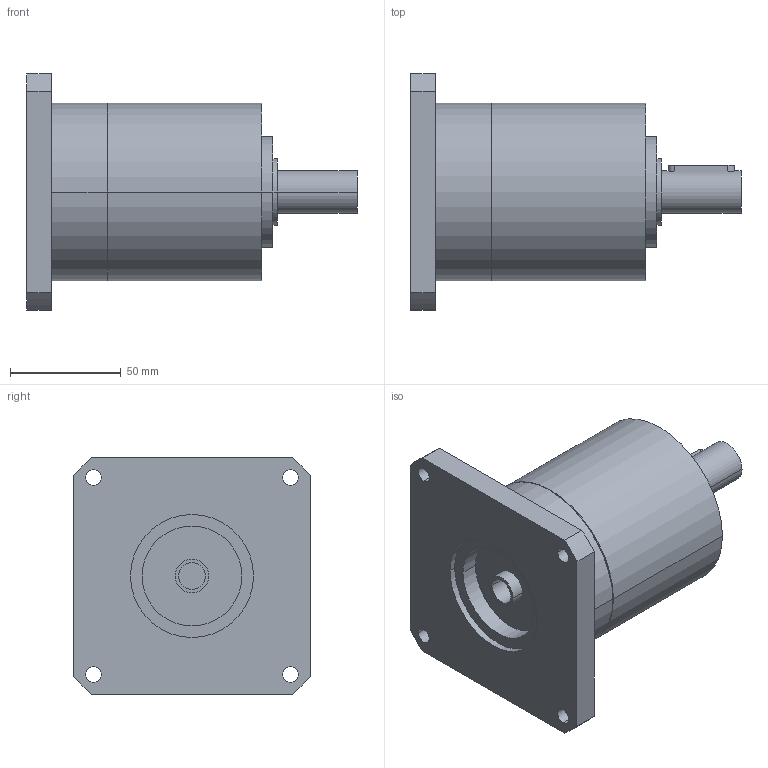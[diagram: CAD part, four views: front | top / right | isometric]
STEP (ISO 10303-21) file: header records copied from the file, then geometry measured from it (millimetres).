
FILE_DESCRIPTION(('CoCreate Modeling STEP Export'),'2;1');
FILE_NAME('GPR100_ig-3-4-5-6_19_B14_12.7_P02.stp','2014-08-26T10:06:44',(''),(''),'CoCreate Modeling STEP processor for AP214 (Solid Model)','CoCreate Modeling 16.00C 25-Feb-2009 (C) Parametric Technology GmbH','');
FILE_SCHEMA(('AUTOMOTIVE_DESIGN { 1 0 10303 214 1 1 1 1 }'));
Length unit declared in the file: millimetre
Products named in the file (2): GPR100_ig-3-4-5-6_19_B14_12.7_P02
Assembly tree (1 placements, depth 2):
  GPR100_ig-3-4-5-6_19_B14_12.7_P02
    GPR100_ig-3-4-5-6_19_B14_12.7_P02
Bounding box: 149 x 106.5 x 106.5 mm (x, y, z)
Volume: 597646.2 mm3; surface area: 59303.6 mm2
Topology: 1 solids, 1 shells, 70 faces, 187 edges, 131 vertices
Faces by surface type: cylinder 42, plane 22, cone 6
Entity records: 1934 total; most frequent: ORIENTED_EDGE 370, CARTESIAN_POINT 359, DIRECTION 262, EDGE_CURVE 185, VERTEX_POINT 131, AXIS2_PLACEMENT_3D 98, EDGE_LOOP 92, FACE_OUTER_BOUND 70
